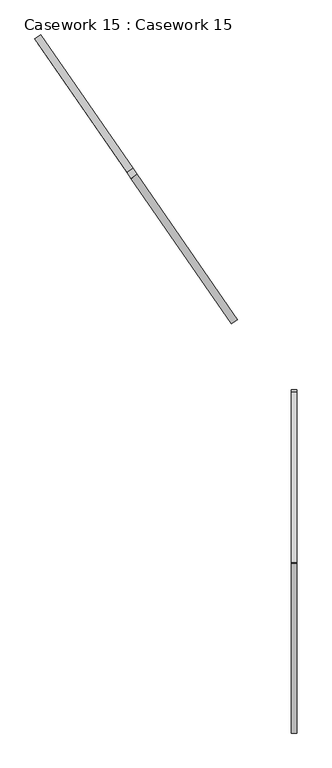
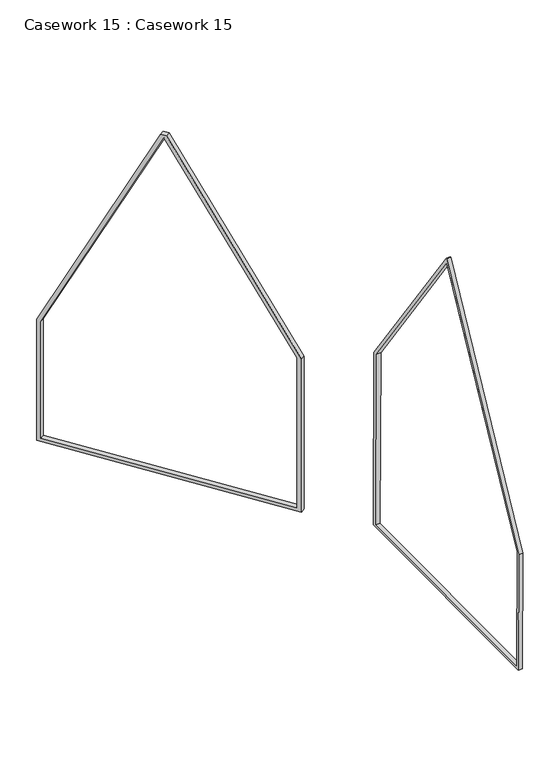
"""IFC4 building model written with IfcOpenShell, lengths in millimetres: furniture geometry, Casework 15 : Casework 15."""

from ifc_helpers import new_model, si_unit, frame, origin, place, context, project, spatial, polyline, outline, extrude, source, transform, mapped, element, save


def casework_15_casework_15_146c0986(model_context):
    return source(origin(), model_context, "Body", "SweptSolid", [
        extrude(outline(polyline([(2824.3944445, 258.2566401), (-4411.0389416, 211.1010199), (-4434.0443815, 3740.9947443), (-842.3527276, 10587.1967615), (-818.3783945, 10587.3530099), (2789.967659, 5540.6113707), (2824.3944445, 258.2566401)]), holes=[polyline([(2696.1810543, 340.376903), (2662.1741469, 5558.3066591), (-815.2914129, 10421.9948916), (-4354.0576146, 3782.223074), (-4331.3275121, 294.5763951), (2696.1810543, 340.376903)])]), frame((-7751.2927939, 0.0, 0.0), z_axis=(1.0, 0.0, 0.0), x_axis=(0.0, 1.0, 0.0)), (0.0, 0.0, 1.0), 122.7017439),
        extrude(outline(polyline([(1270.6652293, -113.9004978), (1270.6652293, 7213.374852), (5925.3609039, 7213.374852), (11622.6281154, 3476.0683868), (11622.6281154, 3318.6409062), (4956.3276573, -113.9004978), (1270.6652293, -113.9004978)]), holes=[polyline([(1354.6592173, 0.0), (4911.4327369, 0.0), (11521.6935249, 3403.6860458), (5931.3028387, 7070.8834018), (1354.6592173, 7070.8834018), (1354.6592173, 0.0)])]), frame((-13116.9991007, 10152.6787602, -1031.293678), z_axis=(0.8223851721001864, 0.5689311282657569, 0.0), x_axis=(0.0, 0.0, 1.0)), (0.0, 0.0, 1.0), 150.0),
    ])


if __name__ == "__main__":
    model = new_model("IFC4")
    model_context = context("Model", 3, world=origin())
    ifc_project = project(units=[si_unit("LENGTHUNIT", "METRE", prefix="MILLI")], contexts=[model_context])
    site = spatial("IfcSite", under=ifc_project)
    building = spatial("IfcBuilding", under=site)
    placement = place(None, origin())
    casework_15_casework_15_shape = casework_15_casework_15_146c0986(model_context)
    element("IfcFurniture", 1, ObjectType="Casework 15 : Casework 15", at=placement, inside=building, context=model_context, shape_type="MappedRepresentation", body=[
        mapped(casework_15_casework_15_shape, transform((0.0, 0.0, 0.0), x_axis=(1.0, 0.0, 0.0), y_axis=(0.0, 1.0, 0.0), z_axis=(0.0, 0.0, 1.0))),
    ])
    save(model, "model.ifc")
